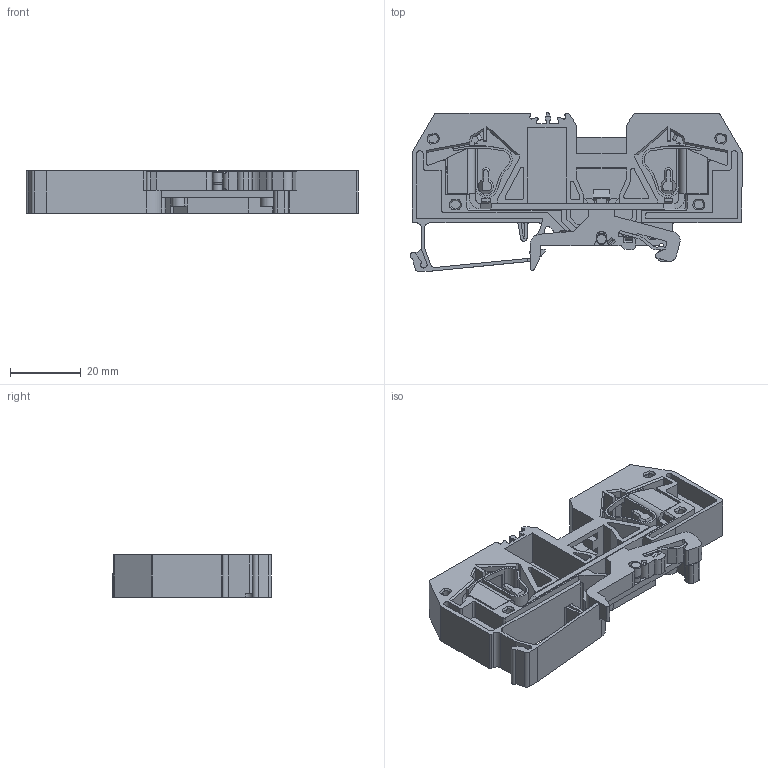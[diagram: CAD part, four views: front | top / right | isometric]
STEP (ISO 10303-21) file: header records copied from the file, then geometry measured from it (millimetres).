
FILE_DESCRIPTION (( 'STEP AP203' ), '1' );
FILE_NAME ('ﾊﾏﾐ1-16ﾂ-2ﾂ-ﾐﾅ.STEP', '2019-03-04T12:37:54', ( '' ), ( '' ), 'SwSTEP 2.0', 'SolidWorks 2016', '' );
FILE_SCHEMA (( 'CONFIG_CONTROL_DESIGN' ));
Length unit declared in the file: millimetre
Products named in the file (1): ﾊﾏﾐ1-16ﾂ-2ﾂ-ﾐﾅ
Bounding box: 94.05 x 44.9 x 12 mm (x, y, z)
Volume: 18493.2 mm3; surface area: 24978.7 mm2
Topology: 6 solids, 6 shells, 757 faces, 2098 edges, 1374 vertices
Faces by surface type: plane 516, cylinder 205, cone 36
Full cylindrical faces by diameter (mm): 1.3 x1, 1.5 x1, 1.8 x1, 2 x1, 2.4 x1, 2.65 x1, 2.7 x1, 2.95 x1, 3.1 x1, 3.4 x1, 9.5 x2
Entity records: 24064 total; most frequent: CARTESIAN_POINT 4668, ORIENTED_EDGE 4134, DIRECTION 3865, EDGE_CURVE 2067, VECTOR 1521, LINE 1521, VERTEX_POINT 1369, AXIS2_PLACEMENT_3D 1172
